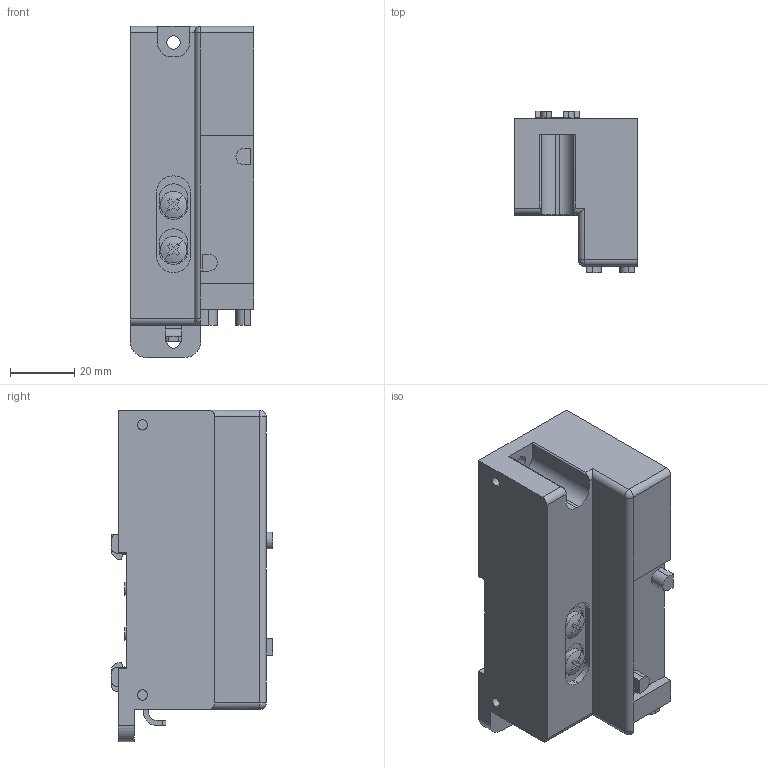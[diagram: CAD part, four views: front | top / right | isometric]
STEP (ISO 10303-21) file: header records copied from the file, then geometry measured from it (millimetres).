
FILE_DESCRIPTION( (''), '2;1');
FILE_NAME ('CVICAD02.18556.F10ZX-LK-DN_7240.stp','2020-09-01T14:17:41',(''),(''),'spGate 12.6.6','','');
FILE_SCHEMA (('AUTOMOTIVE_DESIGN'));
Length unit declared in the file: millimetre
Bounding box: 38.5 x 50.2 x 103 mm (x, y, z)
Volume: 123636.3 mm3; surface area: 21141.1 mm2
Topology: 1 solids, 1 shells, 357 faces, 1015 edges, 720 vertices
Faces by surface type: plane 265, cylinder 86, sphere 6
Entity records: 19340 total; most frequent: CARTESIAN_POINT 2280, ORIENTED_EDGE 2026, DIRECTION 1756, COLOUR_RGB 1371, PRESENTATION_STYLE_ASSIGNMENT 1371, STYLED_ITEM 1371, EDGE_CURVE 1013, DRAUGHTING_PRE_DEFINED_CURVE_FONT 1013
